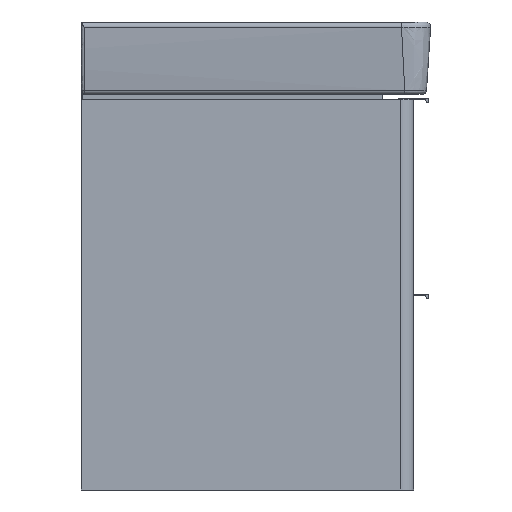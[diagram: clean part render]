
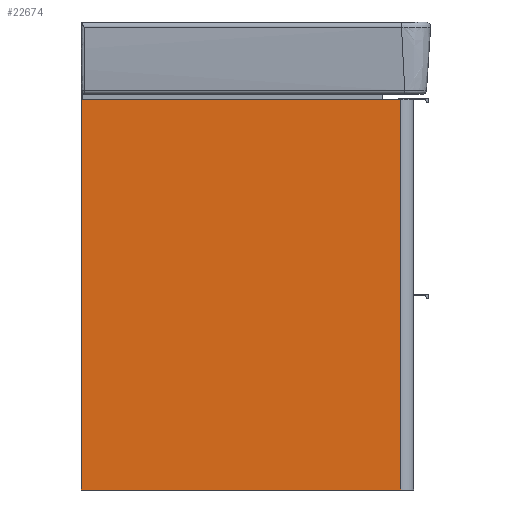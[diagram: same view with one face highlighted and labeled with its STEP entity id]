
A CAD part, left-side view. The second image highlights one B-rep face of the part: STEP entity #22674.
In plain terms, the highlighted planar face has unit normal (-1, 0, 0).
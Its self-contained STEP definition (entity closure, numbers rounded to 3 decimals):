
#4248=FACE_OUTER_BOUND('',#5288,.T.);
#5288=EDGE_LOOP('',(#17135,#17136,#17137,#17138));
#6506=LINE('',#32263,#8306);
#6508=LINE('',#32269,#8308);
#6512=LINE('',#32277,#8312);
#6513=LINE('',#32278,#8313);
#8306=VECTOR('',#26300,10.);
#8308=VECTOR('',#26306,10.);
#8312=VECTOR('',#26312,10.);
#8313=VECTOR('',#26313,10.);
#10096=VERTEX_POINT('',#32260);
#10097=VERTEX_POINT('',#32262);
#10099=VERTEX_POINT('',#32268);
#10102=VERTEX_POINT('',#32276);
#13383=EDGE_CURVE('',#10096,#10097,#6506,.T.);
#13386=EDGE_CURVE('',#10097,#10099,#6508,.T.);
#13390=EDGE_CURVE('',#10102,#10096,#6512,.T.);
#13391=EDGE_CURVE('',#10099,#10102,#6513,.T.);
#17135=ORIENTED_EDGE('',*,*,#13383,.F.);
#17136=ORIENTED_EDGE('',*,*,#13390,.F.);
#17137=ORIENTED_EDGE('',*,*,#13391,.F.);
#17138=ORIENTED_EDGE('',*,*,#13386,.F.);
#22165=PLANE('',#24156);
#22674=ADVANCED_FACE('',(#4248),#22165,.T.);
#24156=AXIS2_PLACEMENT_3D('',#32275,#26310,#26311);
#26300=DIRECTION('',(0.,0.,-1.));
#26306=DIRECTION('',(0.,1.,0.));
#26310=DIRECTION('center_axis',(-1.,0.,0.));
#26311=DIRECTION('ref_axis',(0.,-1.,0.));
#26312=DIRECTION('',(0.,-1.,0.));
#26313=DIRECTION('',(0.,0.,1.));
#32260=CARTESIAN_POINT('',(-404.5,-202.,515.));
#32262=CARTESIAN_POINT('',(-404.5,-202.,0.));
#32263=CARTESIAN_POINT('',(-404.5,-202.,0.));
#32268=CARTESIAN_POINT('',(-404.5,219.,0.));
#32269=CARTESIAN_POINT('',(-404.5,-219.,0.));
#32275=CARTESIAN_POINT('Origin',(-404.5,219.,0.));
#32276=CARTESIAN_POINT('',(-404.5,219.,515.));
#32277=CARTESIAN_POINT('',(-404.5,-219.,515.));
#32278=CARTESIAN_POINT('',(-404.5,219.,0.));
